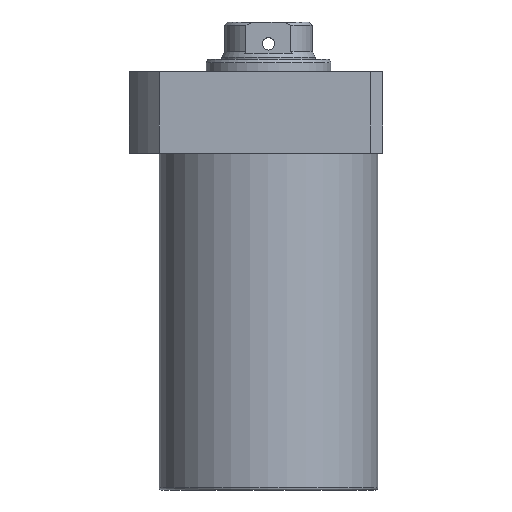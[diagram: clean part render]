
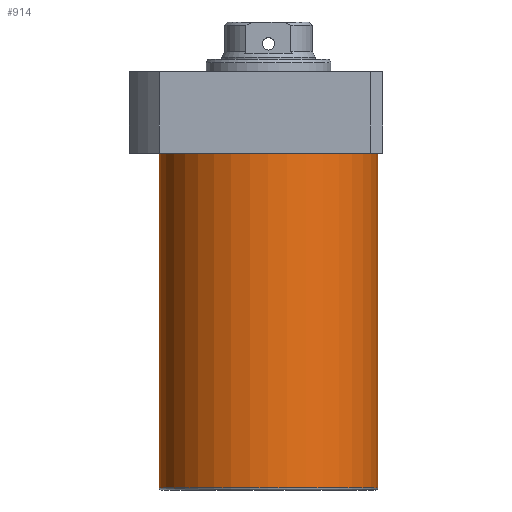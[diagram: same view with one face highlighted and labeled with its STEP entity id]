
A CAD part, front view. The second image highlights one B-rep face of the part: STEP entity #914.
In plain terms, the highlighted cylindrical face has radius 52.5 mm (diameter 105 mm), a partial arc.
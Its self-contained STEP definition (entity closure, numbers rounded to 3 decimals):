
#36 = EDGE_CURVE ( 'NONE', #2126, #1317, #1875, .T. ) ;
#203 = EDGE_CURVE ( 'NONE', #2126, #1065, #1751, .T. ) ;
#220 = DIRECTION ( 'NONE',  ( 0., 0., 1. ) ) ;
#227 = CARTESIAN_POINT ( 'NONE',  ( -52.5, 0., -181.5 ) ) ;
#297 = DIRECTION ( 'NONE',  ( 1., 0., 0. ) ) ;
#365 = CARTESIAN_POINT ( 'NONE',  ( 0., 0., -180.5 ) ) ;
#399 = CARTESIAN_POINT ( 'NONE',  ( 52.5, 0., -180.5 ) ) ;
#451 = DIRECTION ( 'NONE',  ( 0., 0., 1. ) ) ;
#494 = DIRECTION ( 'NONE',  ( 0., 0., -1. ) ) ;
#495 = EDGE_CURVE ( 'NONE', #749, #1065, #1648, .T. ) ;
#538 = AXIS2_PLACEMENT_3D ( 'NONE', #365, #220, #1217 ) ;
#573 = CARTESIAN_POINT ( 'NONE',  ( 52.5, 0., -181.5 ) ) ;
#601 = DIRECTION ( 'NONE',  ( 0., 0., 1. ) ) ;
#614 = VECTOR ( 'NONE', #601, 1000. ) ;
#722 = ORIENTED_EDGE ( 'NONE', *, *, #203, .F. ) ;
#724 = CARTESIAN_POINT ( 'NONE',  ( 52.5, 0., -19.5 ) ) ;
#749 = VERTEX_POINT ( 'NONE', #724 ) ;
#780 = ORIENTED_EDGE ( 'NONE', *, *, #36, .T. ) ;
#819 = CARTESIAN_POINT ( 'NONE',  ( 0., 0., -181.5 ) ) ;
#861 = EDGE_LOOP ( 'NONE', ( #722, #780, #1051, #1344 ) ) ;
#914 = ADVANCED_FACE ( 'NONE', ( #1981 ), #1251, .T. ) ;
#927 = DIRECTION ( 'NONE',  ( 0., 0., 1. ) ) ;
#928 = AXIS2_PLACEMENT_3D ( 'NONE', #1530, #494, #1860 ) ;
#1051 = ORIENTED_EDGE ( 'NONE', *, *, #2053, .T. ) ;
#1065 = VERTEX_POINT ( 'NONE', #1516 ) ;
#1217 = DIRECTION ( 'NONE',  ( -1., 0., 0. ) ) ;
#1251 = CYLINDRICAL_SURFACE ( 'NONE', #1980, 52.5 ) ;
#1317 = VERTEX_POINT ( 'NONE', #399 ) ;
#1344 = ORIENTED_EDGE ( 'NONE', *, *, #495, .T. ) ;
#1372 = LINE ( 'NONE', #573, #2226 ) ;
#1516 = CARTESIAN_POINT ( 'NONE',  ( -52.5, 0., -19.5 ) ) ;
#1530 = CARTESIAN_POINT ( 'NONE',  ( 0., 0., -19.5 ) ) ;
#1648 = CIRCLE ( 'NONE', #928, 52.5 ) ;
#1751 = LINE ( 'NONE', #227, #614 ) ;
#1860 = DIRECTION ( 'NONE',  ( 1., 0., 0. ) ) ;
#1875 = CIRCLE ( 'NONE', #538, 52.5 ) ;
#1980 = AXIS2_PLACEMENT_3D ( 'NONE', #819, #451, #297 ) ;
#1981 = FACE_OUTER_BOUND ( 'NONE', #861, .T. ) ;
#2053 = EDGE_CURVE ( 'NONE', #1317, #749, #1372, .T. ) ;
#2126 = VERTEX_POINT ( 'NONE', #2165 ) ;
#2165 = CARTESIAN_POINT ( 'NONE',  ( -52.5, 0., -180.5 ) ) ;
#2226 = VECTOR ( 'NONE', #927, 1000. ) ;
